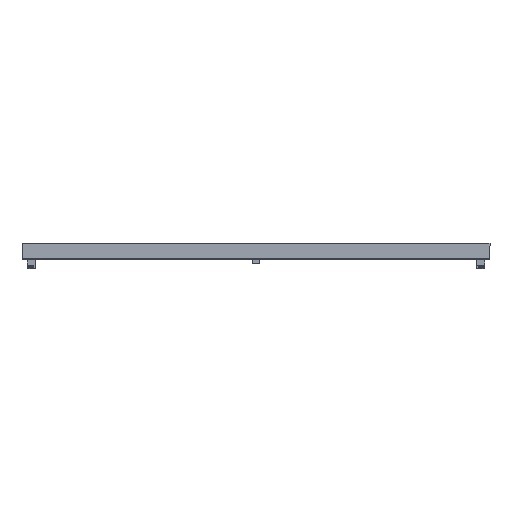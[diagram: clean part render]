
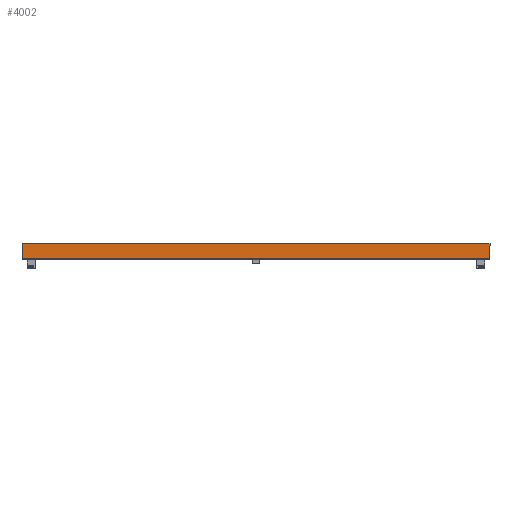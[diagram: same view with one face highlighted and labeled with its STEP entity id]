
A CAD part, left-side view. The second image highlights one B-rep face of the part: STEP entity #4002.
In plain terms, the highlighted planar face has unit normal (-1, 0, 0).
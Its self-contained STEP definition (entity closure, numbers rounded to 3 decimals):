
#15 = VECTOR ( 'NONE', #157, 1000. ) ;
#157 = DIRECTION ( 'NONE',  ( 0., -1., 0. ) ) ;
#377 = DIRECTION ( 'NONE',  ( 1., 0., 0. ) ) ;
#397 = ORIENTED_EDGE ( 'NONE', *, *, #2536, .T. ) ;
#412 = EDGE_CURVE ( 'NONE', #2209, #4133, #3525, .T. ) ;
#887 = EDGE_CURVE ( 'NONE', #3095, #2914, #3699, .T. ) ;
#1145 = CARTESIAN_POINT ( 'NONE',  ( -10., -21., 599.5 ) ) ;
#1345 = EDGE_LOOP ( 'NONE', ( #397, #2872, #2472, #4121 ) ) ;
#1905 = PLANE ( 'NONE',  #3567 ) ;
#2078 = LINE ( 'NONE', #4864, #15 ) ;
#2209 = VERTEX_POINT ( 'NONE', #3694 ) ;
#2240 = LINE ( 'NONE', #3825, #4004 ) ;
#2379 = EDGE_CURVE ( 'NONE', #3095, #4133, #2240, .T. ) ;
#2393 = VECTOR ( 'NONE', #3985, 1000. ) ;
#2472 = ORIENTED_EDGE ( 'NONE', *, *, #2379, .F. ) ;
#2536 = EDGE_CURVE ( 'NONE', #2914, #2209, #2078, .T. ) ;
#2664 = FACE_OUTER_BOUND ( 'NONE', #1345, .T. ) ;
#2865 = CARTESIAN_POINT ( 'NONE',  ( -10., 19.6, -599.5 ) ) ;
#2872 = ORIENTED_EDGE ( 'NONE', *, *, #412, .T. ) ;
#2914 = VERTEX_POINT ( 'NONE', #2865 ) ;
#2964 = CARTESIAN_POINT ( 'NONE',  ( -10., -19.6, 599.5 ) ) ;
#3095 = VERTEX_POINT ( 'NONE', #4019 ) ;
#3245 = DIRECTION ( 'NONE',  ( 0., 0., -1. ) ) ;
#3525 = LINE ( 'NONE', #4367, #2393 ) ;
#3567 = AXIS2_PLACEMENT_3D ( 'NONE', #1145, #377, #5026 ) ;
#3694 = CARTESIAN_POINT ( 'NONE',  ( -10., -19.6, -599.5 ) ) ;
#3699 = LINE ( 'NONE', #4021, #3748 ) ;
#3748 = VECTOR ( 'NONE', #3245, 1000. ) ;
#3825 = CARTESIAN_POINT ( 'NONE',  ( -10., -21., 599.5 ) ) ;
#3925 = DIRECTION ( 'NONE',  ( 0., -1., 0. ) ) ;
#3985 = DIRECTION ( 'NONE',  ( 0., 0., 1. ) ) ;
#4002 = ADVANCED_FACE ( 'NONE', ( #2664 ), #1905, .F. ) ;
#4004 = VECTOR ( 'NONE', #3925, 1000. ) ;
#4019 = CARTESIAN_POINT ( 'NONE',  ( -10., 19.6, 599.5 ) ) ;
#4021 = CARTESIAN_POINT ( 'NONE',  ( -10., 19.6, 599.5 ) ) ;
#4121 = ORIENTED_EDGE ( 'NONE', *, *, #887, .T. ) ;
#4133 = VERTEX_POINT ( 'NONE', #2964 ) ;
#4367 = CARTESIAN_POINT ( 'NONE',  ( -10., -19.6, 599.5 ) ) ;
#4864 = CARTESIAN_POINT ( 'NONE',  ( -10., -21., -599.5 ) ) ;
#5026 = DIRECTION ( 'NONE',  ( 0., 0., -1. ) ) ;
